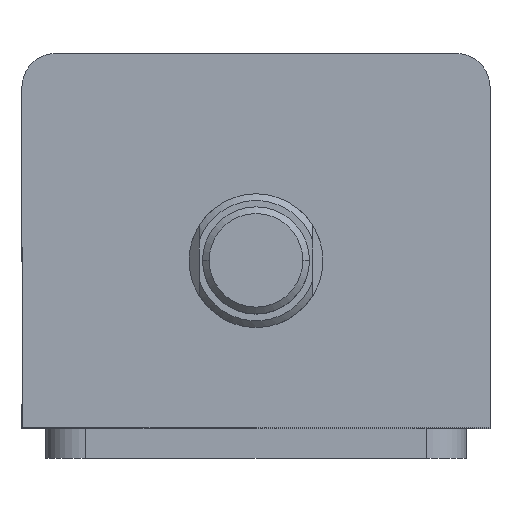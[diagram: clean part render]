
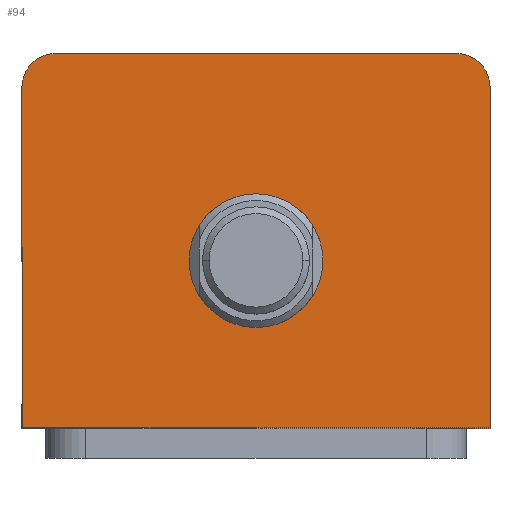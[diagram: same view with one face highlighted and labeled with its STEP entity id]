
A CAD part, top view. The second image highlights one B-rep face of the part: STEP entity #94.
In plain terms, the highlighted planar face has unit normal (0, 0, 1).
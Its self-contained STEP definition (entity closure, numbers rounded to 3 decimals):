
#94 = ADVANCED_FACE ( 'NONE', ( #1153, #1159 ), #2418, .T. ) ;
#223 = EDGE_CURVE ( 'NONE', #2898, #2889, #1250, .T. ) ;
#256 = EDGE_CURVE ( 'NONE', #2960, #2934, #1291, .T. ) ;
#279 = EDGE_CURVE ( 'NONE', #2889, #2946, #1332, .T. ) ;
#280 = EDGE_CURVE ( 'NONE', #2932, #734, #1334, .T. ) ;
#587 = ORIENTED_EDGE ( 'NONE', *, *, #2564, .T. ) ;
#589 = ORIENTED_EDGE ( 'NONE', *, *, #279, .T. ) ;
#591 = ORIENTED_EDGE ( 'NONE', *, *, #223, .T. ) ;
#593 = ORIENTED_EDGE ( 'NONE', *, *, #2557, .T. ) ;
#594 = ORIENTED_EDGE ( 'NONE', *, *, #256, .T. ) ;
#596 = ORIENTED_EDGE ( 'NONE', *, *, #2549, .T. ) ;
#598 = ORIENTED_EDGE ( 'NONE', *, *, #2612, .F. ) ;
#600 = ORIENTED_EDGE ( 'NONE', *, *, #280, .F. ) ;
#697 = AXIS2_PLACEMENT_3D ( 'NONE', #1699, #1626, #1760 ) ;
#734 = VERTEX_POINT ( 'NONE', #1054 ) ;
#777 = AXIS2_PLACEMENT_3D ( 'NONE', #1073, #1072, #1071 ) ;
#784 = AXIS2_PLACEMENT_3D ( 'NONE', #890, #887, #881 ) ;
#881 = DIRECTION ( 'NONE',  ( 1., 0., 0. ) ) ;
#887 = DIRECTION ( 'NONE',  ( 0., 0., 1. ) ) ;
#890 = CARTESIAN_POINT ( 'NONE',  ( 30., 23., 84. ) ) ;
#1054 = CARTESIAN_POINT ( 'NONE',  ( -10., -3., 84. ) ) ;
#1071 = DIRECTION ( 'NONE',  ( 1., 0., 0. ) ) ;
#1072 = DIRECTION ( 'NONE',  ( 0., 0., 1. ) ) ;
#1073 = CARTESIAN_POINT ( 'NONE',  ( 0., -3., 84. ) ) ;
#1077 = DIRECTION ( 'NONE',  ( 0., -1., 0. ) ) ;
#1078 = CARTESIAN_POINT ( 'NONE',  ( -35., 28., 84. ) ) ;
#1153 = FACE_BOUND ( 'NONE', #3056, .T. ) ;
#1159 = FACE_OUTER_BOUND ( 'NONE', #3047, .T. ) ;
#1250 = CIRCLE ( 'NONE', #2426, 5. ) ;
#1291 = CIRCLE ( 'NONE', #784, 5. ) ;
#1332 = LINE ( 'NONE', #1078, #1335 ) ;
#1334 = CIRCLE ( 'NONE', #777, 10. ) ;
#1335 = VECTOR ( 'NONE', #1077, 1000. ) ;
#1481 = CARTESIAN_POINT ( 'NONE',  ( 30., 28., 84. ) ) ;
#1502 = DIRECTION ( 'NONE',  ( 0., 1., 0. ) ) ;
#1536 = CARTESIAN_POINT ( 'NONE',  ( 35., 23., 84. ) ) ;
#1549 = CARTESIAN_POINT ( 'NONE',  ( -35., 23., 84. ) ) ;
#1552 = CARTESIAN_POINT ( 'NONE',  ( 35., 28., 84. ) ) ;
#1588 = CARTESIAN_POINT ( 'NONE',  ( -30., 28., 84. ) ) ;
#1609 = CARTESIAN_POINT ( 'NONE',  ( -35., -28., 84. ) ) ;
#1626 = DIRECTION ( 'NONE',  ( 0., 0., 1. ) ) ;
#1655 = DIRECTION ( 'NONE',  ( -1., 0., 0. ) ) ;
#1699 = CARTESIAN_POINT ( 'NONE',  ( 0., -3., 84. ) ) ;
#1704 = CARTESIAN_POINT ( 'NONE',  ( -35., 28., 84. ) ) ;
#1720 = DIRECTION ( 'NONE',  ( 1., 0., 0. ) ) ;
#1736 = CARTESIAN_POINT ( 'NONE',  ( -35., -28., 84. ) ) ;
#1753 = CARTESIAN_POINT ( 'NONE',  ( 10., -3., 84. ) ) ;
#1755 = CARTESIAN_POINT ( 'NONE',  ( 35., -28., 84. ) ) ;
#1760 = DIRECTION ( 'NONE',  ( 1., 0., 0. ) ) ;
#1784 = LINE ( 'NONE', #1552, #1787 ) ;
#1787 = VECTOR ( 'NONE', #1502, 1000. ) ;
#1795 = LINE ( 'NONE', #1704, #1800 ) ;
#1800 = VECTOR ( 'NONE', #1655, 1000. ) ;
#1807 = LINE ( 'NONE', #1736, #1810 ) ;
#1810 = VECTOR ( 'NONE', #1720, 1000. ) ;
#1882 = CIRCLE ( 'NONE', #697, 10. ) ;
#2077 = DIRECTION ( 'NONE',  ( 1., 0., 0. ) ) ;
#2078 = DIRECTION ( 'NONE',  ( 0., 0., 1. ) ) ;
#2079 = CARTESIAN_POINT ( 'NONE',  ( -30., 23., 84. ) ) ;
#2405 = DIRECTION ( 'NONE',  ( 1., 0., 0. ) ) ;
#2406 = DIRECTION ( 'NONE',  ( 0., 0., 1. ) ) ;
#2412 = CARTESIAN_POINT ( 'NONE',  ( 0., 0., 84. ) ) ;
#2418 = PLANE ( 'NONE',  #2462 ) ;
#2426 = AXIS2_PLACEMENT_3D ( 'NONE', #2079, #2078, #2077 ) ;
#2462 = AXIS2_PLACEMENT_3D ( 'NONE', #2412, #2406, #2405 ) ;
#2549 = EDGE_CURVE ( 'NONE', #2923, #2960, #1784, .T. ) ;
#2557 = EDGE_CURVE ( 'NONE', #2934, #2898, #1795, .T. ) ;
#2564 = EDGE_CURVE ( 'NONE', #2946, #2923, #1807, .T. ) ;
#2612 = EDGE_CURVE ( 'NONE', #734, #2932, #1882, .T. ) ;
#2889 = VERTEX_POINT ( 'NONE', #1549 ) ;
#2898 = VERTEX_POINT ( 'NONE', #1588 ) ;
#2923 = VERTEX_POINT ( 'NONE', #1755 ) ;
#2932 = VERTEX_POINT ( 'NONE', #1753 ) ;
#2934 = VERTEX_POINT ( 'NONE', #1481 ) ;
#2946 = VERTEX_POINT ( 'NONE', #1609 ) ;
#2960 = VERTEX_POINT ( 'NONE', #1536 ) ;
#3047 = EDGE_LOOP ( 'NONE', ( #596, #594, #593, #591, #589, #587 ) ) ;
#3056 = EDGE_LOOP ( 'NONE', ( #600, #598 ) ) ;
